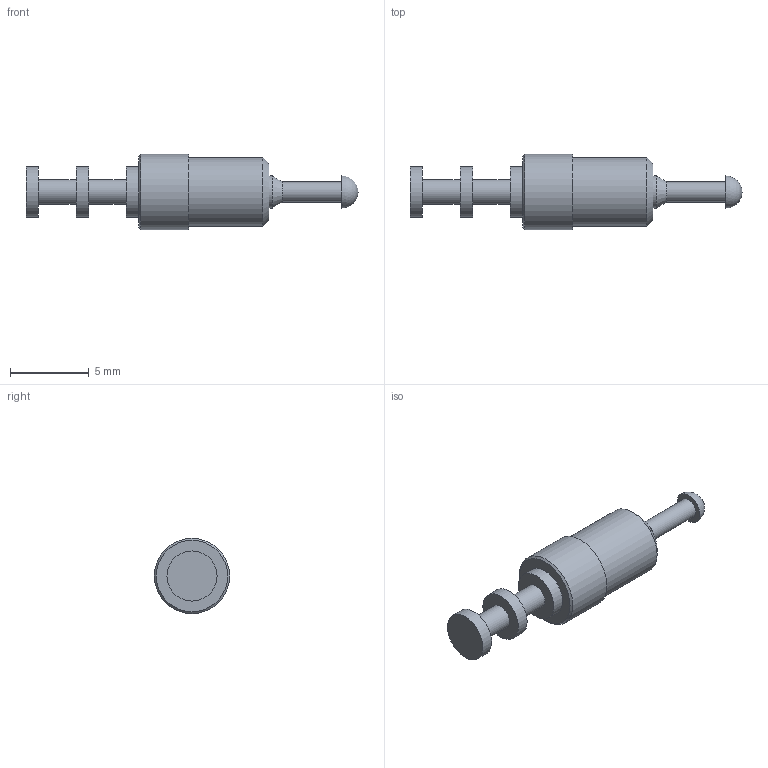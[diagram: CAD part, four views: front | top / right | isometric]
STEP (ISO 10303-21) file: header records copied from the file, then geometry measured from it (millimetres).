
FILE_DESCRIPTION(/* description */ (''),/* implementation_level */ '2;1');
FILE_NAME(/* name */ '\\Snap1\dwgs\Customer 3D Models\571\571-4250-01 Customer model.stp',/* time_stamp */ '2017-01-09T12:17:35+00:00',/* author */ ('paulk'),/* organization */ (''),/* preprocessor_version */ 'ST-DEVELOPER v15.2',/* originating_system */ 'Autodesk Inventor 2014',/* authorisation */ '');
FILE_SCHEMA (('CONFIG_CONTROL_DESIGN'));
Length unit declared in the file: millimetre
Products named in the file (1): 571-4250-01 Customer model
Bounding box: 21.03 x 4.78 x 4.78 mm (x, y, z)
Volume: 169 mm3; surface area: 245.3 mm2
Topology: 1 solids, 1 shells, 22 faces, 37 edges, 24 vertices
Faces by surface type: cylinder 9, plane 9, cone 3, sphere 1
Full cylindrical faces by diameter (mm): 1.27 x1, 1.575 x2, 2.032 x1, 3.175 x3, 4.369 x1, 4.775 x1
Entity records: 491 total; most frequent: DIRECTION 88, CARTESIAN_POINT 65, AXIS2_PLACEMENT_3D 44, EDGE_LOOP 42, ORIENTED_EDGE 42, FACE_BOUND 25, STYLED_ITEM 23, ADVANCED_FACE 22
